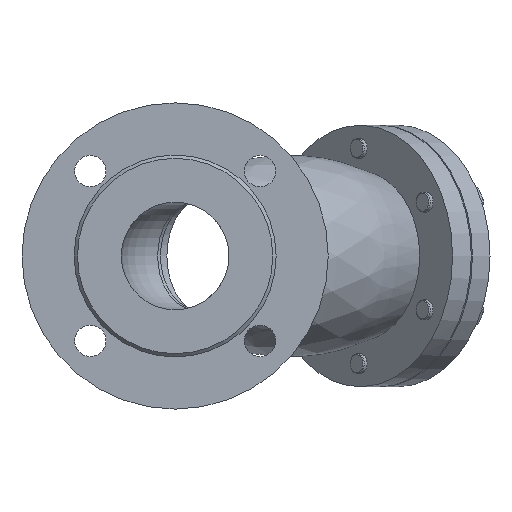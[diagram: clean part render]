
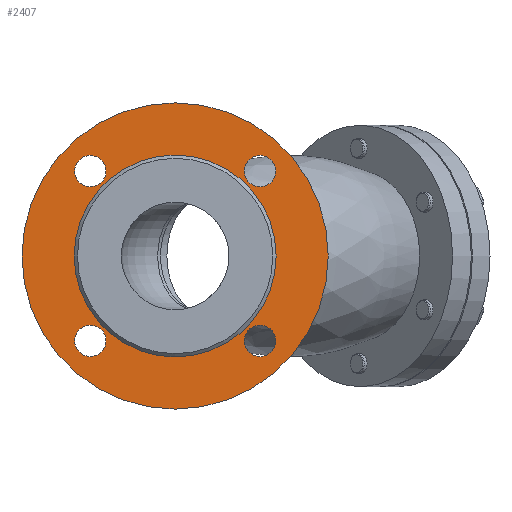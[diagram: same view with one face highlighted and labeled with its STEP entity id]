
A CAD part, left-side view. The second image highlights one B-rep face of the part: STEP entity #2407.
In plain terms, the highlighted planar face has unit normal (-1, 0, 0).
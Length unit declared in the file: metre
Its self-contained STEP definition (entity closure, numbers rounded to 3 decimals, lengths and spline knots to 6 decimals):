
#122=FACE_BOUND('',#646,.T.);
#123=FACE_BOUND('',#647,.T.);
#124=FACE_BOUND('',#648,.T.);
#125=FACE_BOUND('',#649,.T.);
#126=FACE_BOUND('',#650,.T.);
#157=PLANE('',#2699);
#470=FACE_OUTER_BOUND('',#645,.T.);
#645=EDGE_LOOP('',(#1929));
#646=EDGE_LOOP('',(#1930));
#647=EDGE_LOOP('',(#1931));
#648=EDGE_LOOP('',(#1932));
#649=EDGE_LOOP('',(#1933));
#650=EDGE_LOOP('',(#1934));
#769=CIRCLE('',#2603,0.0095);
#771=CIRCLE('',#2606,0.0095);
#773=CIRCLE('',#2609,0.0095);
#775=CIRCLE('',#2612,0.0095);
#826=CIRCLE('',#2697,0.061);
#828=CIRCLE('',#2700,0.0925);
#1039=VERTEX_POINT('',#3794);
#1041=VERTEX_POINT('',#3800);
#1043=VERTEX_POINT('',#3806);
#1045=VERTEX_POINT('',#3812);
#1135=VERTEX_POINT('',#9390);
#1137=VERTEX_POINT('',#9396);
#1276=EDGE_CURVE('',#1039,#1039,#769,.T.);
#1279=EDGE_CURVE('',#1041,#1041,#771,.T.);
#1282=EDGE_CURVE('',#1043,#1043,#773,.T.);
#1285=EDGE_CURVE('',#1045,#1045,#775,.T.);
#1429=EDGE_CURVE('',#1135,#1135,#826,.T.);
#1432=EDGE_CURVE('',#1137,#1137,#828,.T.);
#1929=ORIENTED_EDGE('',*,*,#1432,.T.);
#1930=ORIENTED_EDGE('',*,*,#1429,.F.);
#1931=ORIENTED_EDGE('',*,*,#1285,.T.);
#1932=ORIENTED_EDGE('',*,*,#1282,.T.);
#1933=ORIENTED_EDGE('',*,*,#1279,.T.);
#1934=ORIENTED_EDGE('',*,*,#1276,.T.);
#2407=ADVANCED_FACE('',(#470,#122,#123,#124,#125,#126),#157,.F.);
#2603=AXIS2_PLACEMENT_3D('',#3796,#2947,#2948);
#2606=AXIS2_PLACEMENT_3D('',#3802,#2954,#2955);
#2609=AXIS2_PLACEMENT_3D('',#3808,#2961,#2962);
#2612=AXIS2_PLACEMENT_3D('',#3814,#2968,#2969);
#2697=AXIS2_PLACEMENT_3D('',#9391,#3159,#3160);
#2699=AXIS2_PLACEMENT_3D('',#9395,#3164,#3165);
#2700=AXIS2_PLACEMENT_3D('',#9397,#3166,#3167);
#2947=DIRECTION('center_axis',(1.,0.,0.));
#2948=DIRECTION('ref_axis',(0.,0.,-1.));
#2954=DIRECTION('center_axis',(1.,0.,0.));
#2955=DIRECTION('ref_axis',(0.,0.,-1.));
#2961=DIRECTION('center_axis',(1.,0.,0.));
#2962=DIRECTION('ref_axis',(0.,0.,-1.));
#2968=DIRECTION('center_axis',(1.,0.,0.));
#2969=DIRECTION('ref_axis',(0.,0.,-1.));
#3159=DIRECTION('center_axis',(-1.,0.,0.));
#3160=DIRECTION('ref_axis',(0.,0.,1.));
#3164=DIRECTION('center_axis',(1.,0.,0.));
#3165=DIRECTION('ref_axis',(0.,1.,0.));
#3166=DIRECTION('center_axis',(-1.,0.,0.));
#3167=DIRECTION('ref_axis',(0.,0.,1.));
#3794=CARTESIAN_POINT('',(-0.143,0.051265,-0.060765));
#3796=CARTESIAN_POINT('Origin',(-0.143,0.051265,-0.051265));
#3800=CARTESIAN_POINT('',(-0.143,-0.041765,-0.051265));
#3802=CARTESIAN_POINT('Origin',(-0.143,-0.051265,-0.051265));
#3806=CARTESIAN_POINT('',(-0.143,-0.051265,0.041765));
#3808=CARTESIAN_POINT('Origin',(-0.143,-0.051265,0.051265));
#3812=CARTESIAN_POINT('',(-0.143,0.060765,0.051265));
#3814=CARTESIAN_POINT('Origin',(-0.143,0.051265,0.051265));
#9390=CARTESIAN_POINT('',(-0.143,0.,0.061));
#9391=CARTESIAN_POINT('Origin',(-0.143,0.,0.));
#9395=CARTESIAN_POINT('Origin',(-0.143,0.0925,0.));
#9396=CARTESIAN_POINT('',(-0.143,0.,-0.0925));
#9397=CARTESIAN_POINT('Origin',(-0.143,0.,0.));
